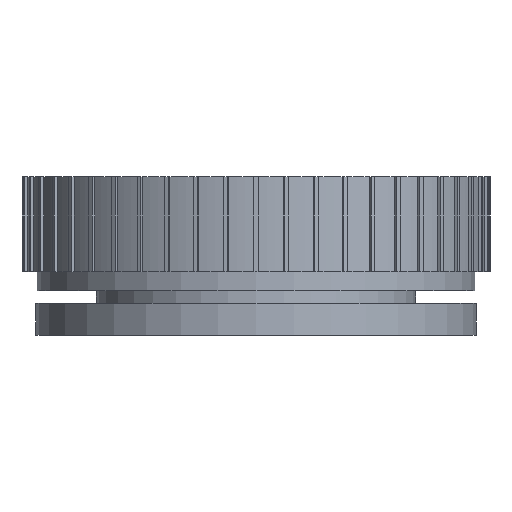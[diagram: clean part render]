
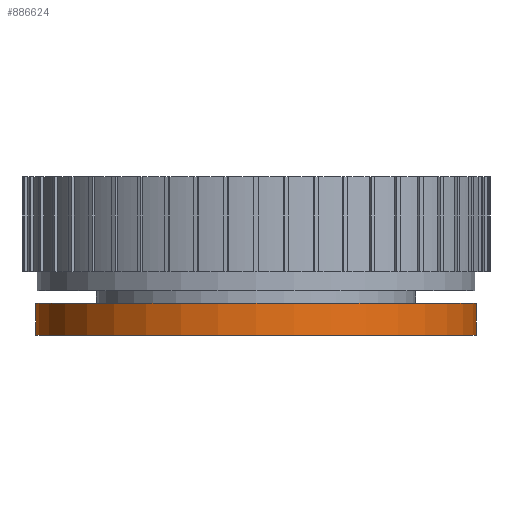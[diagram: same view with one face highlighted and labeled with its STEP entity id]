
A CAD part, front view. The second image highlights one B-rep face of the part: STEP entity #886624.
In plain terms, the highlighted cylindrical face has radius 29 mm (diameter 58 mm), a full revolution.
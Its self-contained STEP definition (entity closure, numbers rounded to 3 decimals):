
#886624 = ADVANCED_FACE('',(#886625),#886638,.T.);
#886625 = FACE_BOUND('',#886626,.F.);
#886626 = EDGE_LOOP('',(#886627,#886661,#886684,#886711));
#886627 = ORIENTED_EDGE('',*,*,#886628,.F.);
#886628 = EDGE_CURVE('',#886629,#886629,#886631,.T.);
#886629 = VERTEX_POINT('',#886630);
#886630 = CARTESIAN_POINT('',(29.,0.,0.2));
#886631 = SURFACE_CURVE('',#886632,(#886637,#886649),.PCURVE_S1.);
#886632 = CIRCLE('',#886633,29.);
#886633 = AXIS2_PLACEMENT_3D('',#886634,#886635,#886636);
#886634 = CARTESIAN_POINT('',(0.,0.,0.2));
#886635 = DIRECTION('',(0.,0.,1.));
#886636 = DIRECTION('',(1.,0.,0.));
#886637 = PCURVE('',#886638,#886643);
#886638 = CYLINDRICAL_SURFACE('',#886639,29.);
#886639 = AXIS2_PLACEMENT_3D('',#886640,#886641,#886642);
#886640 = CARTESIAN_POINT('',(0.,0.,0.2));
#886641 = DIRECTION('',(-0.,-0.,-1.));
#886642 = DIRECTION('',(1.,0.,0.));
#886643 = DEFINITIONAL_REPRESENTATION('',(#886644),#886648);
#886644 = LINE('',#886645,#886646);
#886645 = CARTESIAN_POINT('',(-0.,0.));
#886646 = VECTOR('',#886647,1.);
#886647 = DIRECTION('',(-1.,0.));
#886648 = ( GEOMETRIC_REPRESENTATION_CONTEXT(2) 
PARAMETRIC_REPRESENTATION_CONTEXT() REPRESENTATION_CONTEXT('2D SPACE',''
  ) );
#886649 = PCURVE('',#886650,#886655);
#886650 = PLANE('',#886651);
#886651 = AXIS2_PLACEMENT_3D('',#886652,#886653,#886654);
#886652 = CARTESIAN_POINT('',(0.,0.,0.2
    ));
#886653 = DIRECTION('',(0.,0.,1.));
#886654 = DIRECTION('',(1.,0.,-0.));
#886655 = DEFINITIONAL_REPRESENTATION('',(#886656),#886660);
#886656 = CIRCLE('',#886657,29.);
#886657 = AXIS2_PLACEMENT_2D('',#886658,#886659);
#886658 = CARTESIAN_POINT('',(0.,0.));
#886659 = DIRECTION('',(1.,0.));
#886660 = ( GEOMETRIC_REPRESENTATION_CONTEXT(2) 
PARAMETRIC_REPRESENTATION_CONTEXT() REPRESENTATION_CONTEXT('2D SPACE',''
  ) );
#886661 = ORIENTED_EDGE('',*,*,#886662,.F.);
#886662 = EDGE_CURVE('',#886663,#886629,#886665,.T.);
#886663 = VERTEX_POINT('',#886664);
#886664 = CARTESIAN_POINT('',(29.,0.,4.4));
#886665 = SEAM_CURVE('',#886666,(#886670,#886677),.PCURVE_S1.);
#886666 = LINE('',#886667,#886668);
#886667 = CARTESIAN_POINT('',(29.,0.,4.4));
#886668 = VECTOR('',#886669,1.);
#886669 = DIRECTION('',(0.,0.,-1.));
#886670 = PCURVE('',#886638,#886671);
#886671 = DEFINITIONAL_REPRESENTATION('',(#886672),#886676);
#886672 = LINE('',#886673,#886674);
#886673 = CARTESIAN_POINT('',(-0.,-4.2));
#886674 = VECTOR('',#886675,1.);
#886675 = DIRECTION('',(0.,1.));
#886676 = ( GEOMETRIC_REPRESENTATION_CONTEXT(2) 
PARAMETRIC_REPRESENTATION_CONTEXT() REPRESENTATION_CONTEXT('2D SPACE',''
  ) );
#886677 = PCURVE('',#886638,#886678);
#886678 = DEFINITIONAL_REPRESENTATION('',(#886679),#886683);
#886679 = LINE('',#886680,#886681);
#886680 = CARTESIAN_POINT('',(-6.283,-4.2));
#886681 = VECTOR('',#886682,1.);
#886682 = DIRECTION('',(0.,1.));
#886683 = ( GEOMETRIC_REPRESENTATION_CONTEXT(2) 
PARAMETRIC_REPRESENTATION_CONTEXT() REPRESENTATION_CONTEXT('2D SPACE',''
  ) );
#886684 = ORIENTED_EDGE('',*,*,#886685,.T.);
#886685 = EDGE_CURVE('',#886663,#886663,#886686,.T.);
#886686 = SURFACE_CURVE('',#886687,(#886692,#886699),.PCURVE_S1.);
#886687 = CIRCLE('',#886688,29.);
#886688 = AXIS2_PLACEMENT_3D('',#886689,#886690,#886691);
#886689 = CARTESIAN_POINT('',(0.,0.,4.4));
#886690 = DIRECTION('',(0.,0.,1.));
#886691 = DIRECTION('',(1.,0.,0.));
#886692 = PCURVE('',#886638,#886693);
#886693 = DEFINITIONAL_REPRESENTATION('',(#886694),#886698);
#886694 = LINE('',#886695,#886696);
#886695 = CARTESIAN_POINT('',(-0.,-4.2));
#886696 = VECTOR('',#886697,1.);
#886697 = DIRECTION('',(-1.,0.));
#886698 = ( GEOMETRIC_REPRESENTATION_CONTEXT(2) 
PARAMETRIC_REPRESENTATION_CONTEXT() REPRESENTATION_CONTEXT('2D SPACE',''
  ) );
#886699 = PCURVE('',#886700,#886705);
#886700 = PLANE('',#886701);
#886701 = AXIS2_PLACEMENT_3D('',#886702,#886703,#886704);
#886702 = CARTESIAN_POINT('',(0.,0.,4.4
    ));
#886703 = DIRECTION('',(0.,0.,1.));
#886704 = DIRECTION('',(1.,0.,-0.));
#886705 = DEFINITIONAL_REPRESENTATION('',(#886706),#886710);
#886706 = CIRCLE('',#886707,29.);
#886707 = AXIS2_PLACEMENT_2D('',#886708,#886709);
#886708 = CARTESIAN_POINT('',(0.,0.));
#886709 = DIRECTION('',(1.,0.));
#886710 = ( GEOMETRIC_REPRESENTATION_CONTEXT(2) 
PARAMETRIC_REPRESENTATION_CONTEXT() REPRESENTATION_CONTEXT('2D SPACE',''
  ) );
#886711 = ORIENTED_EDGE('',*,*,#886662,.T.);
